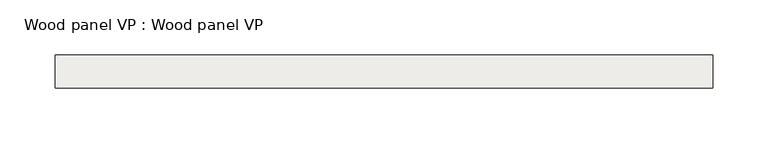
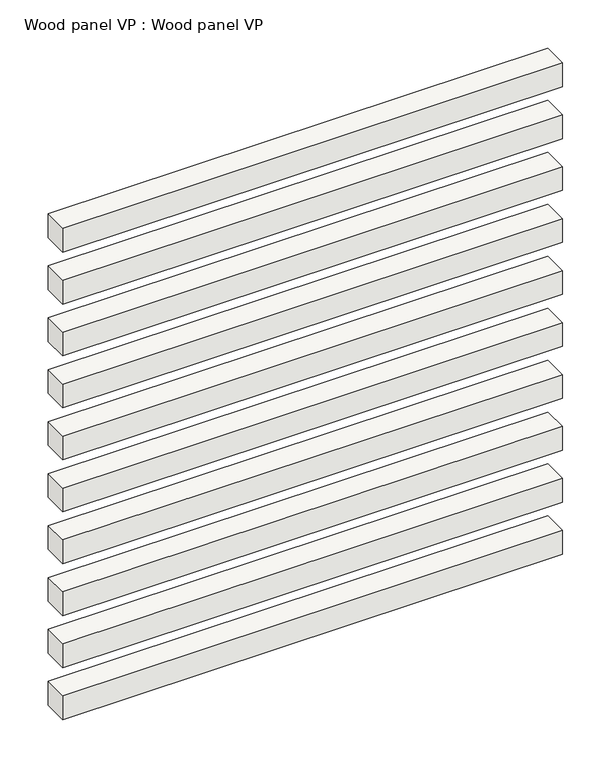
"""IFC4 building model written with IfcOpenShell, lengths in millimetres: covering geometry, Wood panel VP : Wood panel VP."""

from ifc_helpers import new_model, si_unit, frame, origin, origin_with_axes, place, context, project, spatial, polyline, outline, extrude, source, transform, mapped, element, save


def wood_panel_vp_wood_panel_vp_4e1c76e0(model_context):
    return source(origin(), model_context, "Body", "SweptSolid", [
        extrude(outline(polyline([(298.2404059, 89.5), (298.2404059, 59.5), (-298.2404059, 59.5), (-298.2404059, 89.5), (298.2404059, 89.5)])), origin_with_axes(), (0.0, 0.0, 1.0), 30.0),
        extrude(outline(polyline([(298.2404059, 89.5), (298.2404059, 59.5), (-298.2404059, 59.5), (-298.2404059, 89.5), (298.2404059, 89.5)])), frame((0.0, 0.0, 65.5555556), z_axis=(0.0, 0.0, 1.0), x_axis=(1.0, 0.0, 0.0)), (0.0, 0.0, 1.0), 30.0),
        extrude(outline(polyline([(298.2404059, 89.5), (298.2404059, 59.5), (-298.2404059, 59.5), (-298.2404059, 89.5), (298.2404059, 89.5)])), frame((0.0, 0.0, 131.1111111), z_axis=(0.0, 0.0, 1.0), x_axis=(1.0, 0.0, 0.0)), (0.0, 0.0, 1.0), 30.0),
        extrude(outline(polyline([(298.2404059, 89.5), (298.2404059, 59.5), (-298.2404059, 59.5), (-298.2404059, 89.5), (298.2404059, 89.5)])), frame((0.0, 0.0, 196.6666667), z_axis=(0.0, 0.0, 1.0), x_axis=(1.0, 0.0, 0.0)), (0.0, 0.0, 1.0), 30.0),
        extrude(outline(polyline([(298.2404059, 89.5), (298.2404059, 59.5), (-298.2404059, 59.5), (-298.2404059, 89.5), (298.2404059, 89.5)])), frame((0.0, 0.0, 262.2222222), z_axis=(0.0, 0.0, 1.0), x_axis=(1.0, 0.0, 0.0)), (0.0, 0.0, 1.0), 30.0),
        extrude(outline(polyline([(298.2404059, 89.5), (298.2404059, 59.5), (-298.2404059, 59.5), (-298.2404059, 89.5), (298.2404059, 89.5)])), frame((0.0, 0.0, 327.7777778), z_axis=(0.0, 0.0, 1.0), x_axis=(1.0, 0.0, 0.0)), (0.0, 0.0, 1.0), 30.0),
        extrude(outline(polyline([(298.2404059, 89.5), (298.2404059, 59.5), (-298.2404059, 59.5), (-298.2404059, 89.5), (298.2404059, 89.5)])), frame((0.0, 0.0, 393.3333333), z_axis=(0.0, 0.0, 1.0), x_axis=(1.0, 0.0, 0.0)), (0.0, 0.0, 1.0), 30.0),
        extrude(outline(polyline([(298.2404059, 89.5), (298.2404059, 59.5), (-298.2404059, 59.5), (-298.2404059, 89.5), (298.2404059, 89.5)])), frame((0.0, 0.0, 458.8888889), z_axis=(0.0, 0.0, 1.0), x_axis=(1.0, 0.0, 0.0)), (0.0, 0.0, 1.0), 30.0),
        extrude(outline(polyline([(298.2404059, 89.5), (298.2404059, 59.5), (-298.2404059, 59.5), (-298.2404059, 89.5), (298.2404059, 89.5)])), frame((0.0, 0.0, 524.4444444), z_axis=(0.0, 0.0, 1.0), x_axis=(1.0, 0.0, 0.0)), (0.0, 0.0, 1.0), 30.0),
        extrude(outline(polyline([(298.2404059, 89.5), (298.2404059, 59.5), (-298.2404059, 59.5), (-298.2404059, 89.5), (298.2404059, 89.5)])), frame((0.0, 0.0, 590.0), z_axis=(0.0, 0.0, 1.0), x_axis=(1.0, 0.0, 0.0)), (0.0, 0.0, 1.0), 30.0),
    ])


if __name__ == "__main__":
    model = new_model("IFC4")
    model_context = context("Model", 3, world=origin())
    ifc_project = project(units=[si_unit("LENGTHUNIT", "METRE", prefix="MILLI")], contexts=[model_context])
    site = spatial("IfcSite", under=ifc_project)
    building = spatial("IfcBuilding", under=site)
    placement = place(None, origin())
    wood_panel_vp_wood_panel_vp_shape = wood_panel_vp_wood_panel_vp_4e1c76e0(model_context)
    element("IfcCovering", 1, ObjectType="Wood panel VP : Wood panel VP", at=placement, inside=building, context=model_context, shape_type="MappedRepresentation", body=[
        mapped(wood_panel_vp_wood_panel_vp_shape, transform((0.0, 0.0, 0.0), x_axis=(1.0, 0.0, 0.0), y_axis=(0.0, 1.0, 0.0), z_axis=(0.0, 0.0, 1.0))),
    ])
    save(model, "model.ifc")
